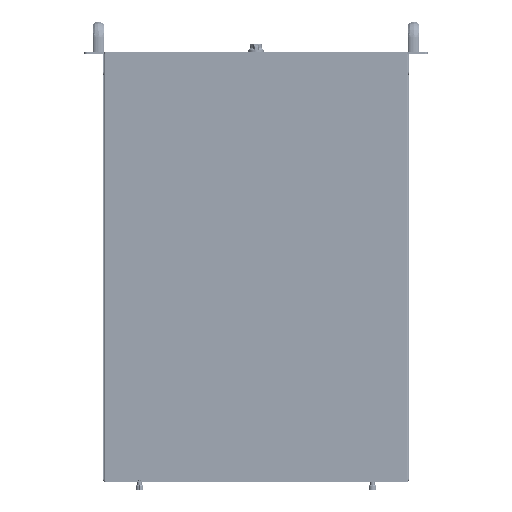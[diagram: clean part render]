
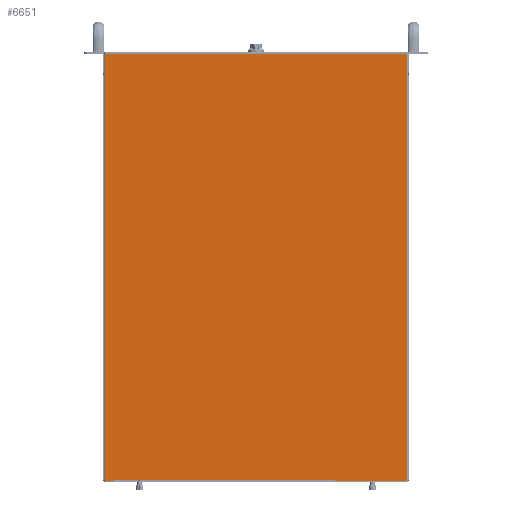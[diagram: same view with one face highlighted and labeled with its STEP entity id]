
A CAD part, front view. The second image highlights one B-rep face of the part: STEP entity #6651.
In plain terms, the highlighted planar face has unit normal (0, -1, 0).
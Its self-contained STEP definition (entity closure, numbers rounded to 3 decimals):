
#4449 = VERTEX_POINT ( 'NONE', #78801 ) ;
#4458 = VERTEX_POINT ( 'NONE', #78818 ) ;
#6651 = ADVANCED_FACE ( 'NONE', ( #79345 ), #81203, .F. ) ;
#19184 = EDGE_CURVE ( 'NONE', #4458, #4449, #88532, .T. ) ;
#19284 = EDGE_CURVE ( 'NONE', #23916, #4458, #88833, .T. ) ;
#19288 = EDGE_CURVE ( 'NONE', #23942, #23936, #88865, .T. ) ;
#19290 = EDGE_CURVE ( 'NONE', #23948, #23958, #88859, .T. ) ;
#19293 = EDGE_CURVE ( 'NONE', #23916, #23936, #88879, .T. ) ;
#19294 = EDGE_CURVE ( 'NONE', #23958, #23942, #88871, .T. ) ;
#19295 = EDGE_CURVE ( 'NONE', #23948, #23920, #88887, .T. ) ;
#19296 = EDGE_CURVE ( 'NONE', #23920, #4449, #88891, .T. ) ;
#23916 = VERTEX_POINT ( 'NONE', #43402 ) ;
#23920 = VERTEX_POINT ( 'NONE', #43400 ) ;
#23936 = VERTEX_POINT ( 'NONE', #43418 ) ;
#23942 = VERTEX_POINT ( 'NONE', #43423 ) ;
#23948 = VERTEX_POINT ( 'NONE', #43428 ) ;
#23958 = VERTEX_POINT ( 'NONE', #43436 ) ;
#43400 = CARTESIAN_POINT ( 'NONE',  ( -199.5, -1.2, 0. ) ) ;
#43402 = CARTESIAN_POINT ( 'NONE',  ( 110.5, -1.2, 0. ) ) ;
#43418 = CARTESIAN_POINT ( 'NONE',  ( 211.8, -1.2, 0. ) ) ;
#43423 = CARTESIAN_POINT ( 'NONE',  ( 211.8, -1.2, 599.4 ) ) ;
#43428 = CARTESIAN_POINT ( 'NONE',  ( -211.8, -1.2, 0. ) ) ;
#43436 = CARTESIAN_POINT ( 'NONE',  ( -211.8, -1.2, 599.4 ) ) ;
#43596 = EDGE_LOOP ( 'NONE', ( #101817, #101818, #101819, #101820, #101821, #101822, #101823, #101824 ) ) ;
#66614 = CARTESIAN_POINT ( 'NONE',  ( 0., -1.2, 1.2 ) ) ;
#66615 = DIRECTION ( 'NONE',  ( -1., 0., 0. ) ) ;
#66830 = CARTESIAN_POINT ( 'NONE',  ( 110.5, -1.2, 299.7 ) ) ;
#66856 = DIRECTION ( 'NONE',  ( 0., 0., 1. ) ) ;
#66857 = DIRECTION ( 'NONE',  ( 0., 0., -1. ) ) ;
#66858 = CARTESIAN_POINT ( 'NONE',  ( 211.8, -1.2, 299.7 ) ) ;
#66863 = DIRECTION ( 'NONE',  ( 0., 0., 1. ) ) ;
#66869 = CARTESIAN_POINT ( 'NONE',  ( -211.8, -1.2, 299.7 ) ) ;
#66874 = CARTESIAN_POINT ( 'NONE',  ( 0., -1.2, 599.4 ) ) ;
#66878 = CARTESIAN_POINT ( 'NONE',  ( 161.75, -1.2, 0. ) ) ;
#66880 = DIRECTION ( 'NONE',  ( 1., 0., 0. ) ) ;
#66881 = DIRECTION ( 'NONE',  ( 1., 0., 0. ) ) ;
#66882 = CARTESIAN_POINT ( 'NONE',  ( -206.25, -1.2, 0. ) ) ;
#66883 = DIRECTION ( 'NONE',  ( 1., 0., 0. ) ) ;
#66884 = CARTESIAN_POINT ( 'NONE',  ( -199.5, -1.2, 0.6 ) ) ;
#66885 = DIRECTION ( 'NONE',  ( 0., 0., 1. ) ) ;
#78801 = CARTESIAN_POINT ( 'NONE',  ( -199.5, -1.2, 1.2 ) ) ;
#78818 = CARTESIAN_POINT ( 'NONE',  ( 110.5, -1.2, 1.2 ) ) ;
#79345 = FACE_OUTER_BOUND ( 'NONE', #43596, .T. ) ;
#81201 = CARTESIAN_POINT ( 'NONE',  ( -211.8, -1.2, 0. ) ) ;
#81203 = PLANE ( 'NONE',  #95119 ) ;
#81206 = DIRECTION ( 'NONE',  ( 0., 1., 0. ) ) ;
#81207 = DIRECTION ( 'NONE',  ( 0., 0., 1. ) ) ;
#88532 = LINE ( 'NONE', #66614, #88540 ) ;
#88540 = VECTOR ( 'NONE', #66615, 1000. ) ;
#88833 = LINE ( 'NONE', #66830, #88857 ) ;
#88857 = VECTOR ( 'NONE', #66856, 1000. ) ;
#88859 = LINE ( 'NONE', #66869, #88875 ) ;
#88865 = LINE ( 'NONE', #66858, #88869 ) ;
#88869 = VECTOR ( 'NONE', #66857, 1000. ) ;
#88871 = LINE ( 'NONE', #66874, #88889 ) ;
#88875 = VECTOR ( 'NONE', #66863, 1000. ) ;
#88879 = LINE ( 'NONE', #66878, #88885 ) ;
#88885 = VECTOR ( 'NONE', #66880, 1000. ) ;
#88887 = LINE ( 'NONE', #66882, #88893 ) ;
#88889 = VECTOR ( 'NONE', #66881, 1000. ) ;
#88891 = LINE ( 'NONE', #66884, #88897 ) ;
#88893 = VECTOR ( 'NONE', #66883, 1000. ) ;
#88897 = VECTOR ( 'NONE', #66885, 1000. ) ;
#95119 = AXIS2_PLACEMENT_3D ( 'NONE', #81201, #81206, #81207 ) ;
#101817 = ORIENTED_EDGE ( 'NONE', *, *, #19293, .T. ) ;
#101818 = ORIENTED_EDGE ( 'NONE', *, *, #19288, .F. ) ;
#101819 = ORIENTED_EDGE ( 'NONE', *, *, #19294, .F. ) ;
#101820 = ORIENTED_EDGE ( 'NONE', *, *, #19290, .F. ) ;
#101821 = ORIENTED_EDGE ( 'NONE', *, *, #19295, .T. ) ;
#101822 = ORIENTED_EDGE ( 'NONE', *, *, #19296, .T. ) ;
#101823 = ORIENTED_EDGE ( 'NONE', *, *, #19184, .F. ) ;
#101824 = ORIENTED_EDGE ( 'NONE', *, *, #19284, .F. ) ;
